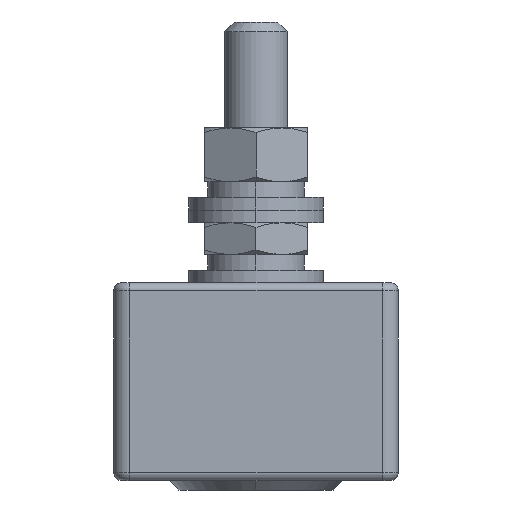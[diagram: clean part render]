
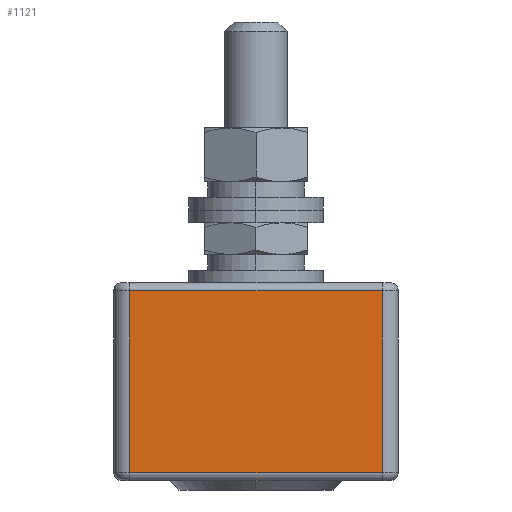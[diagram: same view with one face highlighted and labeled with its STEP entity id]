
A CAD part, left-side view. The second image highlights one B-rep face of the part: STEP entity #1121.
In plain terms, the highlighted planar face has unit normal (-1, 0, 0).
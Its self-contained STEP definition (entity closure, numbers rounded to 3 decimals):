
#1095 = EDGE_CURVE ( 'NONE', #1096, #1097, #9921, .T. ) ;
#1096 = VERTEX_POINT ( 'NONE', #9917 ) ;
#1097 = VERTEX_POINT ( 'NONE', #9916 ) ;
#1098 = ORIENTED_EDGE ( 'NONE', *, *, #1099, .T. ) ;
#1099 = EDGE_CURVE ( 'NONE', #1097, #1100, #9915, .T. ) ;
#1100 = VERTEX_POINT ( 'NONE', #9911 ) ;
#1101 = ORIENTED_EDGE ( 'NONE', *, *, #1102, .T. ) ;
#1102 = EDGE_CURVE ( 'NONE', #1100, #1103, #9910, .T. ) ;
#1103 = VERTEX_POINT ( 'NONE', #9906 ) ;
#1104 = ORIENTED_EDGE ( 'NONE', *, *, #1105, .T. ) ;
#1105 = EDGE_CURVE ( 'NONE', #1103, #1096, #9904, .T. ) ;
#1121 = ADVANCED_FACE ( 'NONE', ( #9972 ), #10023, .T. ) ;
#1122 = EDGE_LOOP ( 'NONE', ( #1123, #1098, #1101, #1104 ) ) ;
#1123 = ORIENTED_EDGE ( 'NONE', *, *, #1095, .T. ) ;
#9901 = DIRECTION ( 'NONE',  ( 0., 0., -1. ) ) ;
#9902 = VECTOR ( 'NONE', #9901, 1000. ) ;
#9903 = CARTESIAN_POINT ( 'NONE',  ( -58.75, 16., -12.5 ) ) ;
#9904 = LINE ( 'NONE', #9903, #9902 ) ;
#9906 = CARTESIAN_POINT ( 'NONE',  ( -58.75, 16., 11.5 ) ) ;
#9907 = DIRECTION ( 'NONE',  ( 0., 1., 0. ) ) ;
#9908 = VECTOR ( 'NONE', #9907, 1000. ) ;
#9909 = CARTESIAN_POINT ( 'NONE',  ( -58.75, 18., 11.5 ) ) ;
#9910 = LINE ( 'NONE', #9909, #9908 ) ;
#9911 = CARTESIAN_POINT ( 'NONE',  ( -58.75, -16., 11.5 ) ) ;
#9912 = DIRECTION ( 'NONE',  ( 0., 0., 1. ) ) ;
#9913 = VECTOR ( 'NONE', #9912, 1000. ) ;
#9914 = CARTESIAN_POINT ( 'NONE',  ( -58.75, -16., -12.5 ) ) ;
#9915 = LINE ( 'NONE', #9914, #9913 ) ;
#9916 = CARTESIAN_POINT ( 'NONE',  ( -58.75, -16., -11.5 ) ) ;
#9917 = CARTESIAN_POINT ( 'NONE',  ( -58.75, 16., -11.5 ) ) ;
#9918 = DIRECTION ( 'NONE',  ( 0., -1., 0. ) ) ;
#9919 = VECTOR ( 'NONE', #9918, 1000. ) ;
#9920 = CARTESIAN_POINT ( 'NONE',  ( -58.75, 18., -11.5 ) ) ;
#9921 = LINE ( 'NONE', #9920, #9919 ) ;
#9972 = FACE_OUTER_BOUND ( 'NONE', #1122, .T. ) ;
#10019 = DIRECTION ( 'NONE',  ( 0., 0., 1. ) ) ;
#10020 = DIRECTION ( 'NONE',  ( -1., 0., 0. ) ) ;
#10021 = CARTESIAN_POINT ( 'NONE',  ( -58.75, 18., -12.5 ) ) ;
#10022 = AXIS2_PLACEMENT_3D ( 'NONE', #10021, #10020, #10019 ) ;
#10023 = PLANE ( 'NONE',  #10022 ) ;
